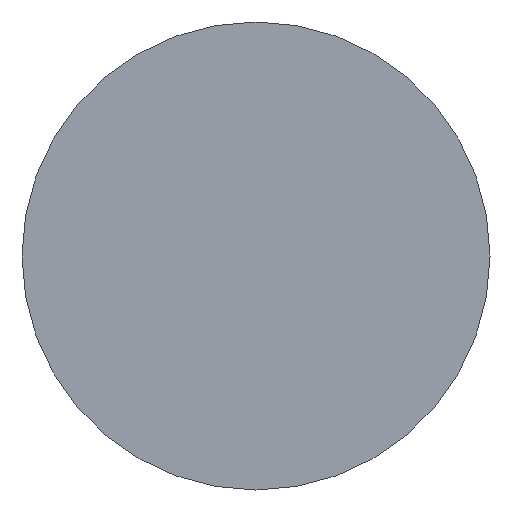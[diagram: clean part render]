
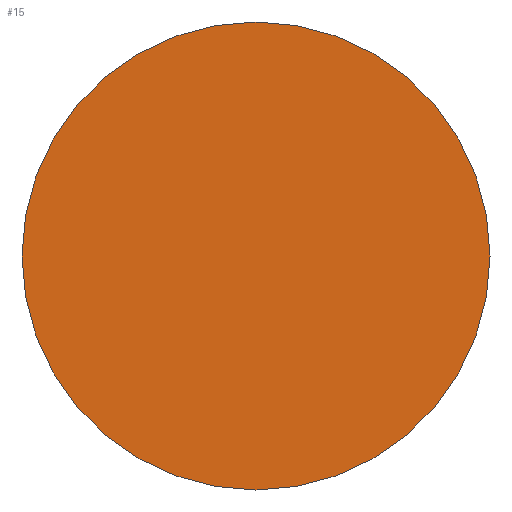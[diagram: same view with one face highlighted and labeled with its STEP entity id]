
A CAD part, left-side view. The second image highlights one B-rep face of the part: STEP entity #15.
In plain terms, the highlighted planar face has unit normal (-1, 0, 0).
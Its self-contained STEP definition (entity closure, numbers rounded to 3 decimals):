
#3 = ORIENTED_EDGE ( 'NONE', *, *, #338, .T. ) ;
#15 = ADVANCED_FACE ( 'NONE', ( #130 ), #131, .F. ) ;
#37 = CARTESIAN_POINT ( 'NONE',  ( 0., 0., 25. ) ) ;
#56 = CARTESIAN_POINT ( 'NONE',  ( 0., 0., -25. ) ) ;
#84 = CIRCLE ( 'NONE', #85, 25. ) ;
#85 = AXIS2_PLACEMENT_3D ( 'NONE', #86, #87, #88 ) ;
#86 = CARTESIAN_POINT ( 'NONE',  ( 0., 0., 0. ) ) ;
#87 = DIRECTION ( 'NONE',  ( -1., 0., 0. ) ) ;
#88 = DIRECTION ( 'NONE',  ( 0., 0., 1. ) ) ;
#130 = FACE_OUTER_BOUND ( 'NONE', #377, .T. ) ;
#131 = PLANE ( 'NONE',  #132 ) ;
#132 = AXIS2_PLACEMENT_3D ( 'NONE', #133, #134, #135 ) ;
#133 = CARTESIAN_POINT ( 'NONE',  ( 0., 25., 0. ) ) ;
#134 = DIRECTION ( 'NONE',  ( 1., 0., 0. ) ) ;
#135 = DIRECTION ( 'NONE',  ( 0., 0., -1. ) ) ;
#146 = EDGE_CURVE ( 'NONE', #375, #378, #217, .T. ) ;
#217 = CIRCLE ( 'NONE', #218, 25. ) ;
#218 = AXIS2_PLACEMENT_3D ( 'NONE', #219, #220, #221 ) ;
#219 = CARTESIAN_POINT ( 'NONE',  ( 0., 0., 0. ) ) ;
#220 = DIRECTION ( 'NONE',  ( -1., 0., 0. ) ) ;
#221 = DIRECTION ( 'NONE',  ( 0., 0., 1. ) ) ;
#338 = EDGE_CURVE ( 'NONE', #378, #375, #84, .T. ) ;
#375 = VERTEX_POINT ( 'NONE', #37 ) ;
#376 = ORIENTED_EDGE ( 'NONE', *, *, #146, .T. ) ;
#377 = EDGE_LOOP ( 'NONE', ( #376, #3 ) ) ;
#378 = VERTEX_POINT ( 'NONE', #56 ) ;
